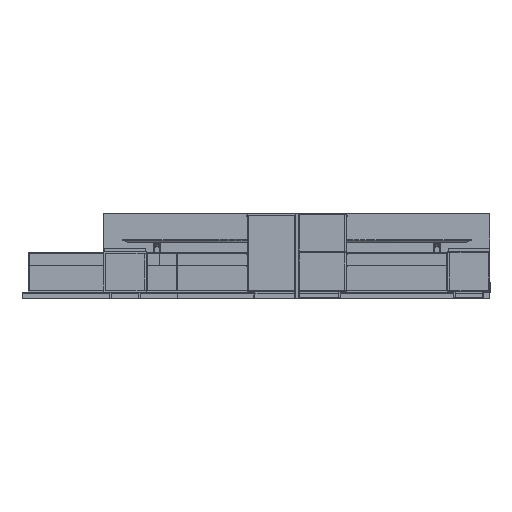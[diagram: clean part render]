
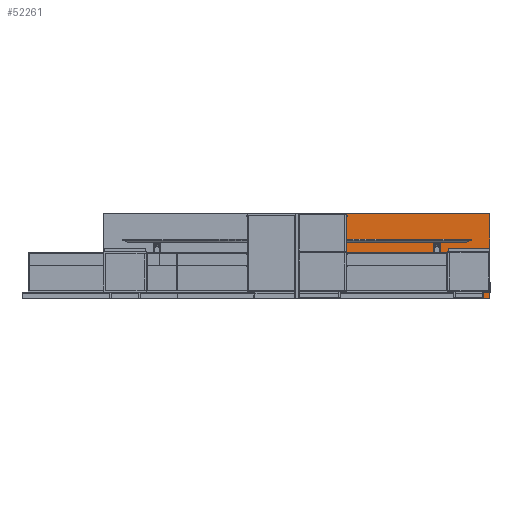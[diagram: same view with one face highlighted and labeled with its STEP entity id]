
A CAD part, top view. The second image highlights one B-rep face of the part: STEP entity #52261.
In plain terms, the highlighted planar face has unit normal (0, 0, 1).
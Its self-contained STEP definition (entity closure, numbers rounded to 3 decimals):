
#8042=FACE_OUTER_BOUND('',#11046,.T.);
#11046=EDGE_LOOP('',(#37014,#37015,#37016,#37017));
#14297=LINE('',#77031,#19624);
#14300=LINE('',#77037,#19627);
#14303=LINE('',#77043,#19630);
#14306=LINE('',#77047,#19633);
#19624=VECTOR('',#62122,0.394);
#19627=VECTOR('',#62127,0.394);
#19630=VECTOR('',#62132,0.394);
#19633=VECTOR('',#62137,0.394);
#24847=VERTEX_POINT('',#77028);
#24848=VERTEX_POINT('',#77030);
#24850=VERTEX_POINT('',#77036);
#24852=VERTEX_POINT('',#77042);
#29537=EDGE_CURVE('',#24848,#24847,#14297,.T.);
#29540=EDGE_CURVE('',#24850,#24848,#14300,.T.);
#29543=EDGE_CURVE('',#24852,#24850,#14303,.T.);
#29546=EDGE_CURVE('',#24847,#24852,#14306,.T.);
#37014=ORIENTED_EDGE('',*,*,#29546,.T.);
#37015=ORIENTED_EDGE('',*,*,#29543,.T.);
#37016=ORIENTED_EDGE('',*,*,#29540,.T.);
#37017=ORIENTED_EDGE('',*,*,#29537,.T.);
#49972=PLANE('',#56594);
#52261=ADVANCED_FACE('',(#8042),#49972,.T.);
#56594=AXIS2_PLACEMENT_3D('',#77048,#62138,#62139);
#62122=DIRECTION('',(1.,0.,0.));
#62127=DIRECTION('',(0.,-1.,0.));
#62132=DIRECTION('',(-1.,0.,0.));
#62137=DIRECTION('',(0.,1.,0.));
#62138=DIRECTION('center_axis',(0.,0.,1.));
#62139=DIRECTION('ref_axis',(1.,0.,0.));
#77028=CARTESIAN_POINT('',(96.,0.,1.25));
#77030=CARTESIAN_POINT('',(0.,0.,1.25));
#77031=CARTESIAN_POINT('',(0.,0.,1.25));
#77036=CARTESIAN_POINT('',(0.,42.,1.25));
#77037=CARTESIAN_POINT('',(0.,42.,1.25));
#77042=CARTESIAN_POINT('',(96.,42.,1.25));
#77043=CARTESIAN_POINT('',(96.,42.,1.25));
#77047=CARTESIAN_POINT('',(96.,0.,1.25));
#77048=CARTESIAN_POINT('Origin',(48.,21.,1.25));
